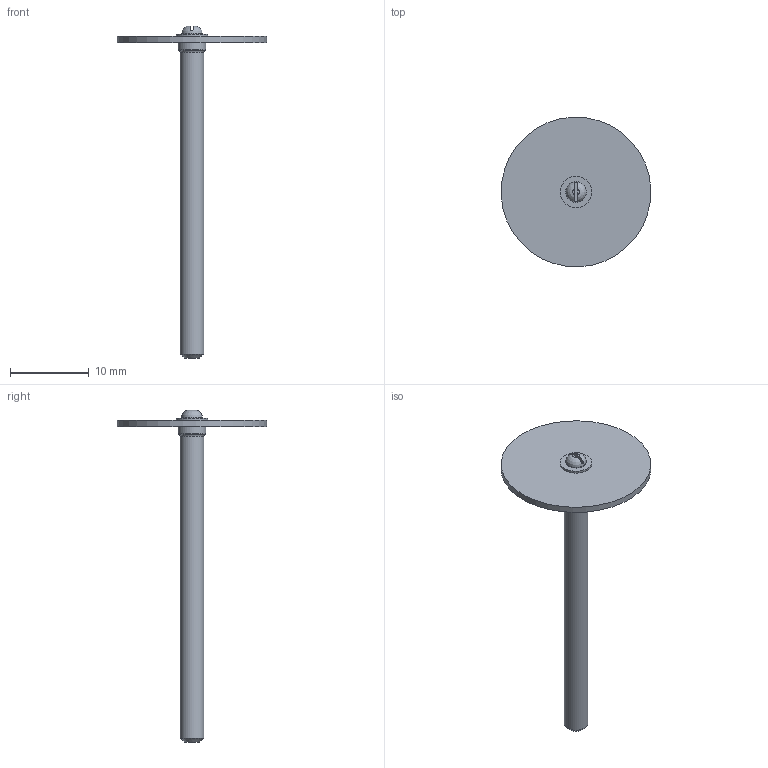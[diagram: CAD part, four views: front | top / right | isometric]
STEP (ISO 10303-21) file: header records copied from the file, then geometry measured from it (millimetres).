
FILE_DESCRIPTION(/* description */ (''),/* implementation_level */ '2;1');
FILE_NAME(/* name */ 'UF7319.stp',/* time_stamp */ '2026-08-10T11:52:31+03:00',/* author */ ('harel'),/* organization */ (''),/* preprocessor_version */ 'ST-DEVELOPER v20',/* originating_system */ 'Autodesk Inventor 2025',/* authorisation */ '');
FILE_SCHEMA (('AUTOMOTIVE_DESIGN { 1 0 10303 214 3 1 1 }'));
Length unit declared in the file: millimetre
Products named in the file (5): UF7313; Part5; disk; CNS 9671 - M1.4 x 4; ISO 7091 - ST 1.6 - 100 HV
Assembly tree (4 placements, depth 2):
  UF7313
    Part5
    disk
    CNS 9671 - M1.4 x 4
    ISO 7091 - ST 1.6 - 100 HV
Bounding box: 18.98 x 18.98 x 42.12 mm (x, y, z)
Volume: 517.1 mm3; surface area: 1085.5 mm2
Topology: 4 solids, 4 shells, 30 faces, 55 edges, 35 vertices
Faces by surface type: plane 12, cylinder 9, cone 4, torus 2, sphere 2, bspline 1
Full cylindrical faces by diameter (mm): 1.183 x1, 1.216 x1, 1.4 x1, 1.6 x1, 1.8 x1, 3 x1, 3.5 x1, 4 x1, 19 x1
Entity records: 1038 total; most frequent: CARTESIAN_POINT 194, DIRECTION 163, ORIENTED_EDGE 110, AXIS2_PLACEMENT_3D 74, EDGE_CURVE 55, EDGE_LOOP 36, CIRCLE 35, VERTEX_POINT 35
